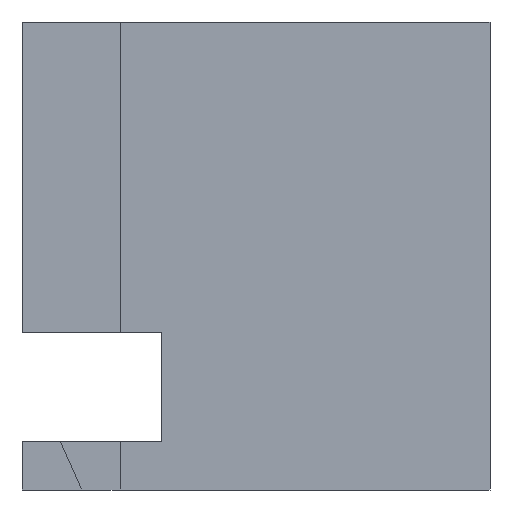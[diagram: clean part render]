
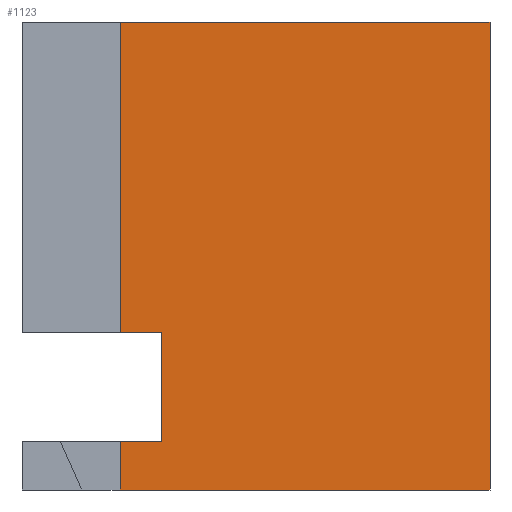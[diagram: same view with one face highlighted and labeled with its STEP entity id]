
A CAD part, front view. The second image highlights one B-rep face of the part: STEP entity #1123.
In plain terms, the highlighted planar face has unit normal (0, -1, 0).
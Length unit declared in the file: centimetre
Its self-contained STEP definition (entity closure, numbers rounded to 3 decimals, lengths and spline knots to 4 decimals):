
#15 = DIRECTION ( 'NONE',  ( -1., 0., 0. ) ) ;
#35 = CARTESIAN_POINT ( 'NONE',  ( 1000., 0., 0. ) ) ;
#39 = VERTEX_POINT ( 'NONE', #510 ) ;
#84 = EDGE_CURVE ( 'NONE', #233, #703, #811, .T. ) ;
#93 = AXIS2_PLACEMENT_3D ( 'NONE', #891, #362, #679 ) ;
#108 = DIRECTION ( 'NONE',  ( 0., 0., 1. ) ) ;
#132 = ORIENTED_EDGE ( 'NONE', *, *, #84, .F. ) ;
#139 = EDGE_CURVE ( 'NONE', #964, #233, #311, .T. ) ;
#148 = VECTOR ( 'NONE', #108, 100. ) ;
#178 = EDGE_CURVE ( 'NONE', #973, #558, #432, .T. ) ;
#184 = CARTESIAN_POINT ( 'NONE',  ( 298.2652, 0., 335.9588 ) ) ;
#194 = LINE ( 'NONE', #764, #1230 ) ;
#202 = EDGE_CURVE ( 'NONE', #39, #558, #644, .T. ) ;
#233 = VERTEX_POINT ( 'NONE', #1047 ) ;
#242 = ORIENTED_EDGE ( 'NONE', *, *, #1037, .T. ) ;
#283 = CARTESIAN_POINT ( 'NONE',  ( 1000., 0., 1000. ) ) ;
#311 = LINE ( 'NONE', #1122, #148 ) ;
#362 = DIRECTION ( 'NONE',  ( 0., 1., 0. ) ) ;
#432 = LINE ( 'NONE', #1197, #1130 ) ;
#455 = EDGE_LOOP ( 'NONE', ( #132, #1077, #528, #242, #940, #643, #765, #966 ) ) ;
#468 = LINE ( 'NONE', #681, #1096 ) ;
#492 = PLANE ( 'NONE',  #93 ) ;
#510 = CARTESIAN_POINT ( 'NONE',  ( 209.5678, 0., 0. ) ) ;
#528 = ORIENTED_EDGE ( 'NONE', *, *, #1214, .T. ) ;
#534 = CARTESIAN_POINT ( 'NONE',  ( 209.5678, 0., 0. ) ) ;
#558 = VERTEX_POINT ( 'NONE', #850 ) ;
#569 = CARTESIAN_POINT ( 'NONE',  ( 0., 0., 0. ) ) ;
#643 = ORIENTED_EDGE ( 'NONE', *, *, #202, .F. ) ;
#644 = LINE ( 'NONE', #534, #735 ) ;
#679 = DIRECTION ( 'NONE',  ( 0., 0., 1. ) ) ;
#681 = CARTESIAN_POINT ( 'NONE',  ( 0., 0., 335.9588 ) ) ;
#683 = EDGE_CURVE ( 'NONE', #39, #1013, #688, .T. ) ;
#688 = LINE ( 'NONE', #569, #692 ) ;
#692 = VECTOR ( 'NONE', #1089, 100. ) ;
#703 = VERTEX_POINT ( 'NONE', #283 ) ;
#717 = VECTOR ( 'NONE', #1007, 100. ) ;
#728 = CARTESIAN_POINT ( 'NONE',  ( 298.2652, 0., 103.379 ) ) ;
#732 = CARTESIAN_POINT ( 'NONE',  ( 209.5678, 0., 335.9588 ) ) ;
#735 = VECTOR ( 'NONE', #1236, 100. ) ;
#764 = CARTESIAN_POINT ( 'NONE',  ( 298.2652, 0., 103.379 ) ) ;
#765 = ORIENTED_EDGE ( 'NONE', *, *, #683, .T. ) ;
#774 = DIRECTION ( 'NONE',  ( 0., 0., -1. ) ) ;
#811 = LINE ( 'NONE', #1217, #717 ) ;
#850 = CARTESIAN_POINT ( 'NONE',  ( 209.5678, 0., 103.379 ) ) ;
#884 = DIRECTION ( 'NONE',  ( 0., 0., -1. ) ) ;
#891 = CARTESIAN_POINT ( 'NONE',  ( 0., 0., 1000. ) ) ;
#896 = LINE ( 'NONE', #1259, #1216 ) ;
#940 = ORIENTED_EDGE ( 'NONE', *, *, #178, .T. ) ;
#964 = VERTEX_POINT ( 'NONE', #732 ) ;
#966 = ORIENTED_EDGE ( 'NONE', *, *, #1100, .F. ) ;
#973 = VERTEX_POINT ( 'NONE', #728 ) ;
#975 = FACE_OUTER_BOUND ( 'NONE', #455, .T. ) ;
#1007 = DIRECTION ( 'NONE',  ( 1., 0., 0. ) ) ;
#1013 = VERTEX_POINT ( 'NONE', #35 ) ;
#1037 = EDGE_CURVE ( 'NONE', #1264, #973, #194, .T. ) ;
#1047 = CARTESIAN_POINT ( 'NONE',  ( 209.5678, 0., 1000. ) ) ;
#1077 = ORIENTED_EDGE ( 'NONE', *, *, #139, .F. ) ;
#1089 = DIRECTION ( 'NONE',  ( 1., 0., 0. ) ) ;
#1096 = VECTOR ( 'NONE', #1270, 100. ) ;
#1100 = EDGE_CURVE ( 'NONE', #703, #1013, #896, .T. ) ;
#1122 = CARTESIAN_POINT ( 'NONE',  ( 209.5678, 0., 0. ) ) ;
#1123 = ADVANCED_FACE ( 'NONE', ( #975 ), #492, .F. ) ;
#1130 = VECTOR ( 'NONE', #15, 100. ) ;
#1197 = CARTESIAN_POINT ( 'NONE',  ( 0., 0., 103.379 ) ) ;
#1214 = EDGE_CURVE ( 'NONE', #964, #1264, #468, .T. ) ;
#1216 = VECTOR ( 'NONE', #774, 100. ) ;
#1217 = CARTESIAN_POINT ( 'NONE',  ( 0., 0., 1000. ) ) ;
#1230 = VECTOR ( 'NONE', #884, 100. ) ;
#1236 = DIRECTION ( 'NONE',  ( 0., 0., 1. ) ) ;
#1259 = CARTESIAN_POINT ( 'NONE',  ( 1000., 0., 1000. ) ) ;
#1264 = VERTEX_POINT ( 'NONE', #184 ) ;
#1270 = DIRECTION ( 'NONE',  ( 1., 0., 0. ) ) ;
